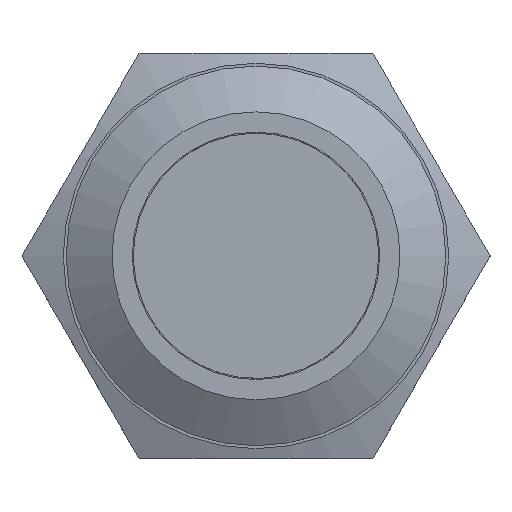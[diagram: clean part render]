
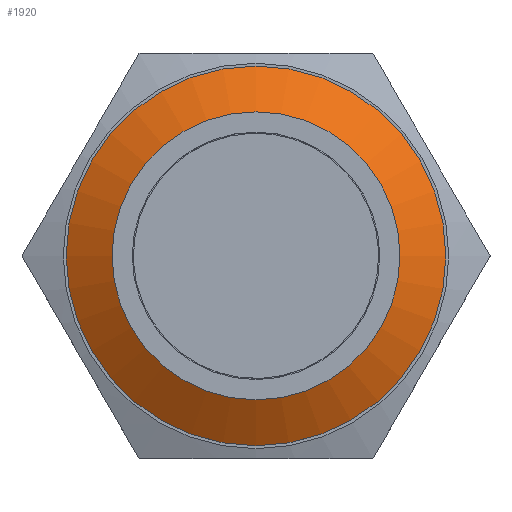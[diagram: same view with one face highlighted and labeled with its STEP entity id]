
A CAD part, top view. The second image highlights one B-rep face of the part: STEP entity #1920.
In plain terms, the highlighted conical face has half-angle 58.841 degrees and reference radius 8.9 mm.
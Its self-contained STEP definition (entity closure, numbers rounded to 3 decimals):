
#1090=CONICAL_SURFACE('',#4345,8.9,58.841);
#1920=ADVANCED_FACE('',(#2176,#2177),#1090,.T.);
#2176=FACE_BOUND('',#2285,.T.);
#2177=FACE_BOUND('',#2286,.T.);
#2285=EDGE_LOOP('',(#2554));
#2286=EDGE_LOOP('',(#2555));
#2554=ORIENTED_EDGE('',*,*,#3765,.F.);
#2555=ORIENTED_EDGE('',*,*,#3764,.F.);
#3449=VERTEX_POINT('',#5496);
#3450=VERTEX_POINT('',#5499);
#3764=EDGE_CURVE('',#3449,#3449,#4225,.T.);
#3765=EDGE_CURVE('',#3450,#3450,#4226,.T.);
#4225=CIRCLE('',#4318,8.9);
#4226=CIRCLE('',#4320,6.75);
#4318=AXIS2_PLACEMENT_3D('',#5495,#4615,#4616);
#4320=AXIS2_PLACEMENT_3D('',#5498,#4619,#4620);
#4345=AXIS2_PLACEMENT_3D('',#5801,#4670,#4671);
#4615=DIRECTION('',(0.,0.,-1.));
#4616=DIRECTION('',(-1.,0.,0.));
#4619=DIRECTION('',(0.,0.,1.));
#4620=DIRECTION('',(-1.,0.,0.));
#4670=DIRECTION('',(0.,0.,-1.));
#4671=DIRECTION('',(-1.,0.,0.));
#5495=CARTESIAN_POINT('',(0.,0.,10.));
#5496=CARTESIAN_POINT('',(-8.9,0.,10.));
#5498=CARTESIAN_POINT('',(0.,0.,11.3));
#5499=CARTESIAN_POINT('',(-6.75,0.,11.3));
#5801=CARTESIAN_POINT('',(0.,0.,10.));
